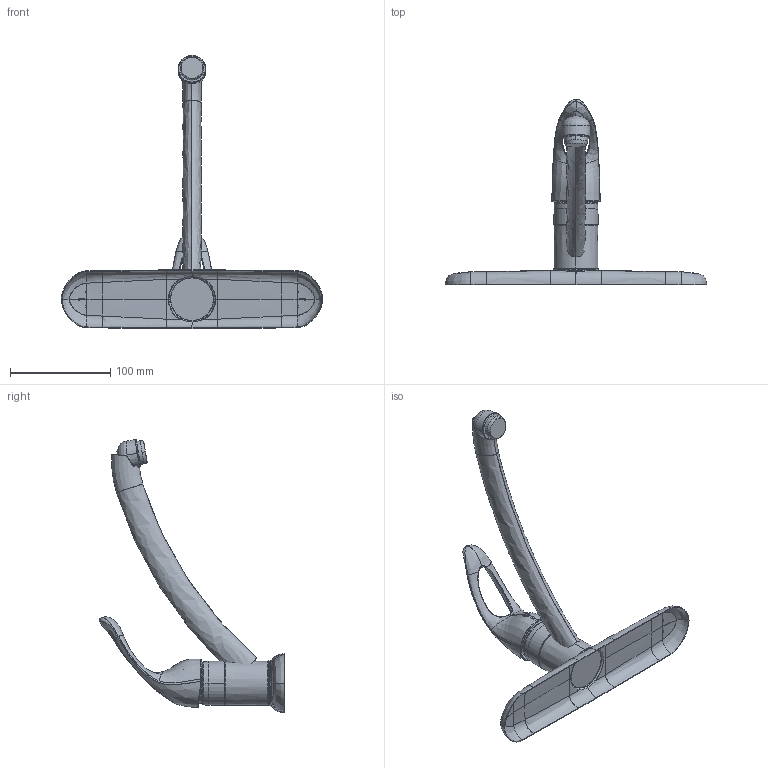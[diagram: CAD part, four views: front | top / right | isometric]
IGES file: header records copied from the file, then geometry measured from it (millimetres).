
Start section:  PTC IGES file: sku_7445.igs
Global section: file name: sku_7445.igs; native system: Pro/ENGINEER by Parametric Technology Corporation; preprocessor: 2006460; author: 9dutterb; organization: Unknown; date: 20071220.160013; units: inch
Bounding box: 260.3 x 184.58 x 272.21 mm (x, y, z)
Surface area: 87227.2 mm2 (no closed solid volume)
Topology: 0 solids, 0 shells, 304 faces, 1466 edges, 1457 vertices
Faces by surface type: bspline 202, revolution 88, extrusion 14
